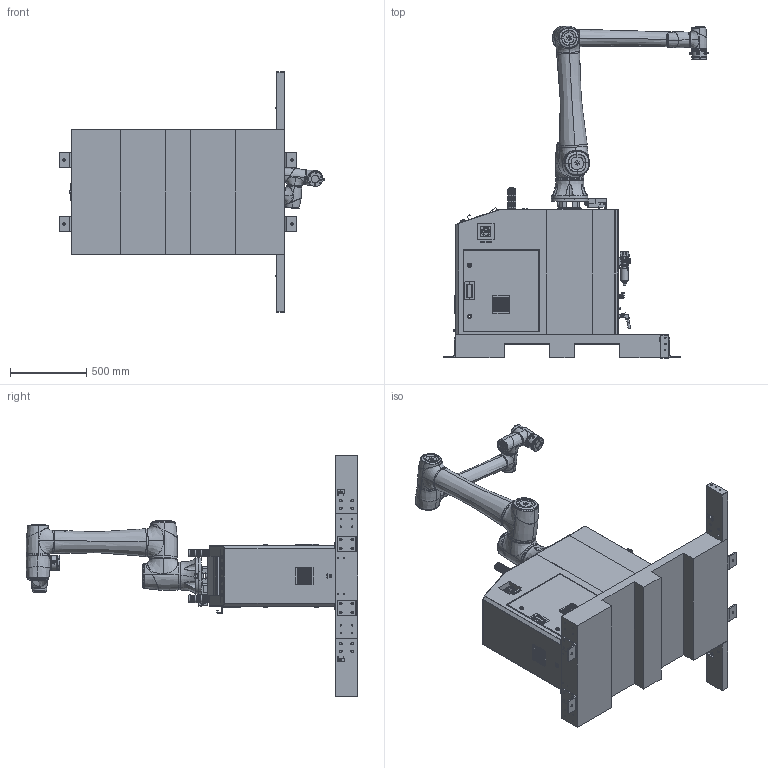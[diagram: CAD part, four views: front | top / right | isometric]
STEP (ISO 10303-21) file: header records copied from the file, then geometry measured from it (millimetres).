
FILE_DESCRIPTION (( 'STEP AP214' ), '1' );
FILE_NAME ('1300000797-CR20A升降式码垛工作站V2（海外版）.STEP', '2025-11-28T02:40:39', ( '' ), ( '' ), 'SwSTEP 2.0', 'SolidWorks 2020', '' );
FILE_SCHEMA (( 'AUTOMOTIVE_DESIGN' ));
Length unit declared in the file: millimetre
Products named in the file (1): 1300000797-CR20A升降式码垛工作站V2（海外版）
Bounding box: 1744.58 x 2182.26 x 1580 mm (x, y, z)
Surface area: 9638042.5 mm2 (no closed solid volume)
Topology: 0 solids, 371 shells, 2186 faces, 12303 edges, 10289 vertices
Faces by surface type: plane 830, cylinder 611, torus 354, bspline 303, cone 76, sphere 12
Entity records: 217965 total; most frequent: CARTESIAN_POINT 104599, DIRECTION 17042, ORIENTED_EDGE 15605, EDGE_CURVE 12292, VERTEX_POINT 10288, AXIS2_PLACEMENT_3D 5860, LINE 5322, VECTOR 5322
